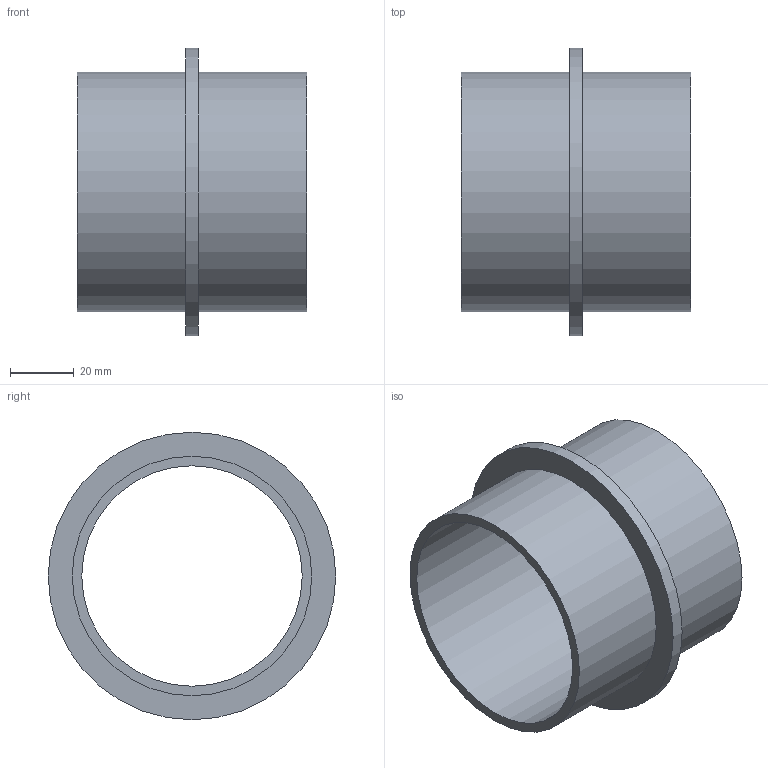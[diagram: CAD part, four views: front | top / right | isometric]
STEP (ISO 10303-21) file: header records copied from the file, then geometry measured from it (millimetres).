
FILE_DESCRIPTION(/* description */ (''),/* implementation_level */ '2;1');
FILE_NAME(/* name */ 'Z:\Geberit\Export\NewStep\Bundbüchse_Einzelteil\stp\365772.stp',/* time_stamp */ '2014-04-03T12:06:48+02:00',/* author */ ('nelson'),/* organization */ (''),/* preprocessor_version */ 'ST-DEVELOPER v15.2',/* originating_system */ 'Autodesk Inventor 2014',/* authorisation */ '');
FILE_SCHEMA (('AUTOMOTIVE_DESIGN { 1 0 10303 214 3 1 1 }'));
Length unit declared in the file: millimetre
Products named in the file (1): 365772
Bounding box: 72 x 90 x 90 mm (x, y, z)
Volume: 56633.5 mm3; surface area: 38005.4 mm2
Topology: 1 solids, 1 shells, 8 faces, 12 edges, 8 vertices
Faces by surface type: cylinder 4, plane 4
Full cylindrical faces by diameter (mm): 69 x1, 75 x2, 90 x1
Entity records: 190 total; most frequent: DIRECTION 34, CARTESIAN_POINT 25, AXIS2_PLACEMENT_3D 17, EDGE_LOOP 16, ORIENTED_EDGE 16, FACE_BOUND 10, CIRCLE 8, VERTEX_POINT 8
